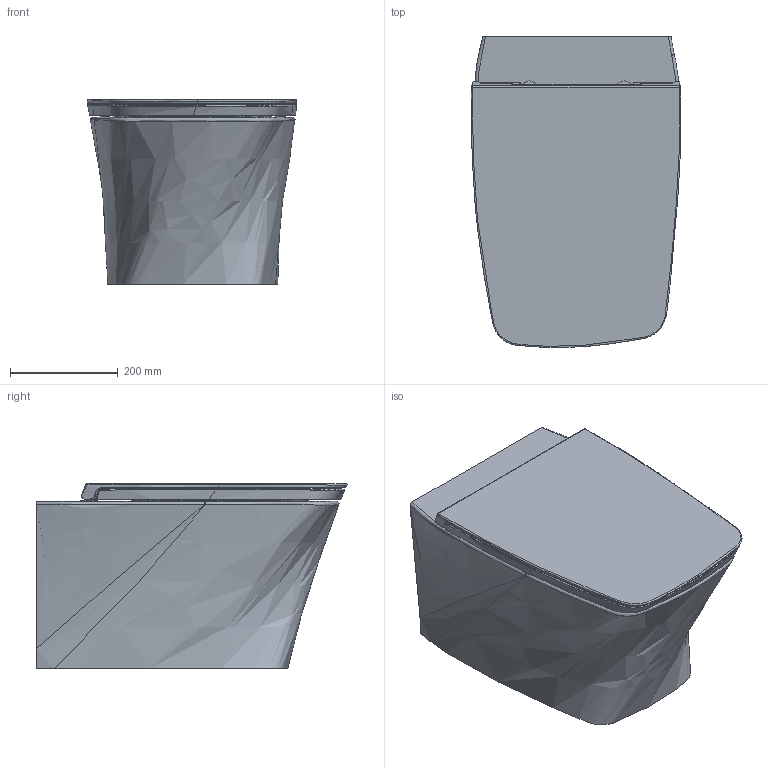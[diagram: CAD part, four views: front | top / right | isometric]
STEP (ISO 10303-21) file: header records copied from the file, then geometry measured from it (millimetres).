
FILE_DESCRIPTION (( 'STEP AP203' ), '1' );
FILE_NAME ('AssiemeHERAWCSOSP.STEP', '2018-09-18T08:43:45', ( '' ), ( '' ), 'SwSTEP 2.0', 'SolidWorks 2018', '' );
FILE_SCHEMA (( 'CONFIG_CONTROL_DESIGN' ));
Length unit declared in the file: millimetre
Products named in the file (5): CW LBSKN AZZURRA P; cerniera ESAGONALE; Assieme copriwater HERA; AssiemeHERAWCSOSP; HERA WC SOSPESO
Assembly tree (5 placements, depth 3):
  AssiemeHERAWCSOSP
    HERA WC SOSPESO
    Assieme copriwater HERA
      CW LBSKN AZZURRA P
      cerniera ESAGONALE  x2
Bounding box: 389.38 x 577.08 x 343 mm (x, y, z)
Volume: 45769027.2 mm3; surface area: 1512604.3 mm2
Topology: 4 solids, 4 shells, 428 faces, 1068 edges, 643 vertices
Faces by surface type: bspline 197, cylinder 101, plane 57, torus 40, cone 33
Full cylindrical faces by diameter (mm): 8 x44, 12 x8, 16 x4, 30 x2
Entity records: 59047 total; most frequent: CARTESIAN_POINT 51525, ORIENTED_EDGE 1734, DIRECTION 1041, EDGE_CURVE 867, VERTEX_POINT 535, AXIS2_PLACEMENT_3D 462, B_SPLINE_CURVE_WITH_KNOTS 448, EDGE_LOOP 408
